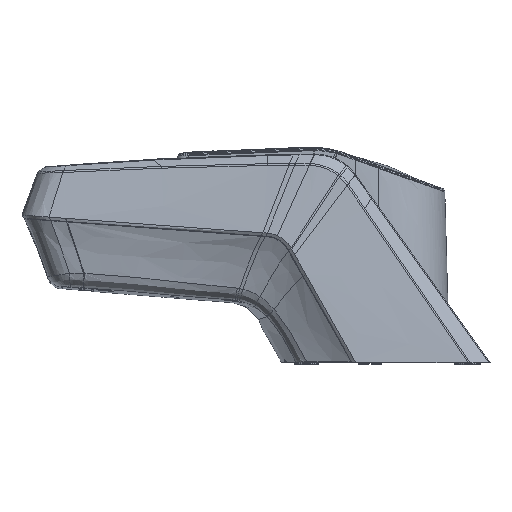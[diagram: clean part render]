
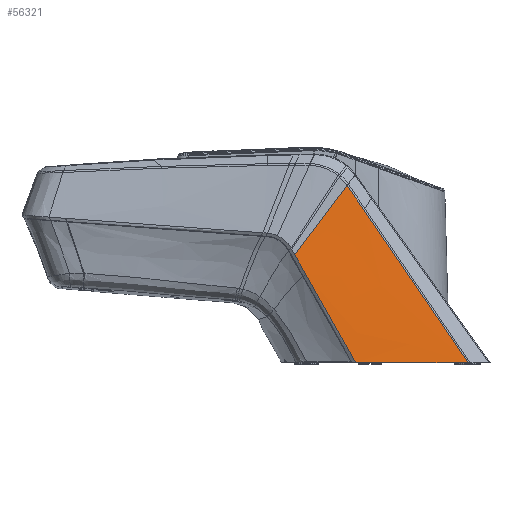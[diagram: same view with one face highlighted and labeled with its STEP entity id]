
A CAD part, left-side view. The second image highlights one B-rep face of the part: STEP entity #56321.
In plain terms, the highlighted free-form (B-spline) face has degree [3, 3] with [4, 5] control points.
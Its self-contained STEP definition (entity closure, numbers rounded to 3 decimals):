
#9137=CARTESIAN_POINT('',(-116.291,122.503,157.492));
#9138=CARTESIAN_POINT('',(-116.438,124.317,160.146));
#9139=CARTESIAN_POINT('',(-116.734,127.965,165.483));
#9140=CARTESIAN_POINT('',(-117.181,133.495,173.566));
#9141=CARTESIAN_POINT('',(-117.482,137.221,179.009));
#9142=CARTESIAN_POINT('',(-117.632,139.094,181.743));
#9144=CARTESIAN_POINT('',(-107.272,16.297,2.));
#9145=CARTESIAN_POINT('',(-107.903,23.36,12.342));
#9146=CARTESIAN_POINT('',(-109.226,38.345,34.286));
#9147=CARTESIAN_POINT('',(-111.368,63.178,70.649));
#9148=CARTESIAN_POINT('',(-113.722,91.132,111.579));
#9149=CARTESIAN_POINT('',(-115.415,111.72,141.713));
#9150=CARTESIAN_POINT('',(-116.291,122.503,157.492));
#9152=CARTESIAN_POINT('',(-125.128,130.366,2.));
#9153=CARTESIAN_POINT('',(-123.168,117.845,2.));
#9154=CARTESIAN_POINT('',(-119.232,92.701,2.));
#9155=CARTESIAN_POINT('',(-113.276,54.654,2.));
#9156=CARTESIAN_POINT('',(-109.278,29.114,2.));
#9157=CARTESIAN_POINT('',(-107.272,16.297,2.));
#9183=CARTESIAN_POINT('',(-117.632,139.094,181.743));
#9188=CARTESIAN_POINT('',(-117.632,139.094,181.743));
#9189=CARTESIAN_POINT('',(-121.616,156.766,158.261));
#9190=CARTESIAN_POINT('',(-125.601,174.438,134.779));
#9191=CARTESIAN_POINT('',(-129.585,192.108,111.296));
#10396=CARTESIAN_POINT('',(-129.585,192.108,
111.296));
#10401=CARTESIAN_POINT('',(-129.318,181.015,
91.702));
#10402=CARTESIAN_POINT('',(-129.404,183.537,
96.158));
#10403=CARTESIAN_POINT('',(-129.506,187.249,
102.717));
#10404=CARTESIAN_POINT('',(-129.569,190.934,
109.224));
#10405=CARTESIAN_POINT('',(-129.585,192.108,
111.296));
#10419=CARTESIAN_POINT('',(-125.128,130.366,2.));
#10420=CARTESIAN_POINT('',(-125.899,136.23,12.406));
#10421=CARTESIAN_POINT('',(-127.229,147.841,
32.998));
#10422=CARTESIAN_POINT('',(-128.635,165.357,
64.013));
#10423=CARTESIAN_POINT('',(-129.142,175.926,
82.707));
#10424=CARTESIAN_POINT('',(-129.318,181.015,
91.702));
#36272=VERTEX_POINT('',#9183);
#36274=VERTEX_POINT('',#9137);
#36276=VERTEX_POINT('',#9144);
#36370=VERTEX_POINT('',#10396);
#36371=VERTEX_POINT('',#10401);
#36373=VERTEX_POINT('',#10419);
#56288=CARTESIAN_POINT('',(-117.632,139.094,
181.743));
#56289=CARTESIAN_POINT('',(-115.908,118.176,
152.002));
#56290=CARTESIAN_POINT('',(-112.342,76.008,
92.072));
#56291=CARTESIAN_POINT('',(-108.6,33.683,
31.939));
#56292=CARTESIAN_POINT('',(-106.695,12.61,
1.995));
#56293=CARTESIAN_POINT('',(-121.616,156.766,
158.261));
#56294=CARTESIAN_POINT('',(-120.421,139.338,
132.26));
#56295=CARTESIAN_POINT('',(-117.748,104.355,
80.13));
#56296=CARTESIAN_POINT('',(-114.561,69.342,
27.997));
#56297=CARTESIAN_POINT('',(-112.843,51.885,
1.996));
#56298=CARTESIAN_POINT('',(-125.601,174.438,
134.779));
#56299=CARTESIAN_POINT('',(-124.934,160.499,
112.518));
#56300=CARTESIAN_POINT('',(-123.153,132.703,
68.187));
#56301=CARTESIAN_POINT('',(-120.523,105.001,
24.056));
#56302=CARTESIAN_POINT('',(-118.991,91.16,
1.997));
#56303=CARTESIAN_POINT('',(-129.585,192.108,
111.296));
#56304=CARTESIAN_POINT('',(-129.448,181.66,
92.775));
#56305=CARTESIAN_POINT('',(-128.558,161.05,
56.244));
#56306=CARTESIAN_POINT('',(-126.484,140.66,
20.116));
#56307=CARTESIAN_POINT('',(-125.139,130.435,
2.));
#56308=B_SPLINE_SURFACE_WITH_KNOTS('1428',3,3,((#56288,#56289,#56290,#56291,
#56292),(#56293,#56294,#56295,#56296,#56297),(#56298,#56299,#56300,#56301,
#56302),(#56303,#56304,#56305,#56306,#56307)),.UNSPECIFIED.,.F.,.F.,.F.,(4,4),
(4,1,4),(0.136,1.002),(0.849,
0.925,1.),.UNSPECIFIED.);
#56310=ORIENTED_EDGE('5223',*,*,#56309,.F.);
#56311=ORIENTED_EDGE('5225',*,*,#56272,.F.);
#56312=ORIENTED_EDGE('5442',*,*,#39040,.F.);
#56314=ORIENTED_EDGE('5409',*,*,#56313,.T.);
#56316=ORIENTED_EDGE('5407',*,*,#56315,.T.);
#56318=ORIENTED_EDGE('5438',*,*,#56317,.F.);
#56319=EDGE_LOOP('1428',(#56310,#56311,#56312,#56314,#56316,#56318));
#56320=FACE_OUTER_BOUND('1428',#56319,.F.);
#9143=B_SPLINE_CURVE_WITH_KNOTS('5223',3,(#9137,#9138,#9139,#9140,#9141,#9142),
.UNSPECIFIED.,.F.,.F.,(4,1,1,4),(0.,0.333,0.667,1.),
.UNSPECIFIED.);
#9151=B_SPLINE_CURVE_WITH_KNOTS('5225',3,(#9144,#9145,#9146,#9147,#9148,#9149,
#9150),.UNSPECIFIED.,.F.,.F.,(4,1,1,1,4),(0.,0.25,0.5,0.75,1.),
.UNSPECIFIED.);
#9158=B_SPLINE_CURVE_WITH_KNOTS('5442',3,(#9152,#9153,#9154,#9155,#9156,#9157),
.UNSPECIFIED.,.F.,.F.,(4,1,1,4),(0.,0.333,0.667,1.),
.UNSPECIFIED.);
#9192=B_SPLINE_CURVE_WITH_KNOTS('5438',3,(#9188,#9189,#9190,#9191),
.UNSPECIFIED.,.F.,.F.,(4,4),(0.,1.),.UNSPECIFIED.);
#10406=B_SPLINE_CURVE_WITH_KNOTS('5407',3,(#10401,#10402,#10403,#10404,#10405),
.UNSPECIFIED.,.F.,.F.,(4,1,4),(0.,0.68,1.),.UNSPECIFIED.);
#10425=B_SPLINE_CURVE_WITH_KNOTS('5409',3,(#10419,#10420,#10421,#10422,#10423,
#10424),.UNSPECIFIED.,.F.,.F.,(4,1,1,4),(0.,0.333,
0.667,1.),.UNSPECIFIED.);
#39040=EDGE_CURVE('5442',#36373,#36276,#9158,.T.);
#56272=EDGE_CURVE('5225',#36276,#36274,#9151,.T.);
#56309=EDGE_CURVE('5223',#36274,#36272,#9143,.T.);
#56313=EDGE_CURVE('5409',#36373,#36371,#10425,.T.);
#56315=EDGE_CURVE('5407',#36371,#36370,#10406,.T.);
#56317=EDGE_CURVE('5438',#36272,#36370,#9192,.T.);
#56321=ADVANCED_FACE('1428',(#56320),#56308,.T.);
